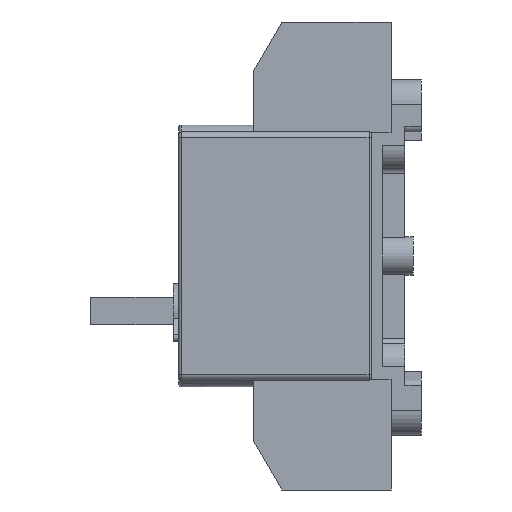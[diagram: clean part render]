
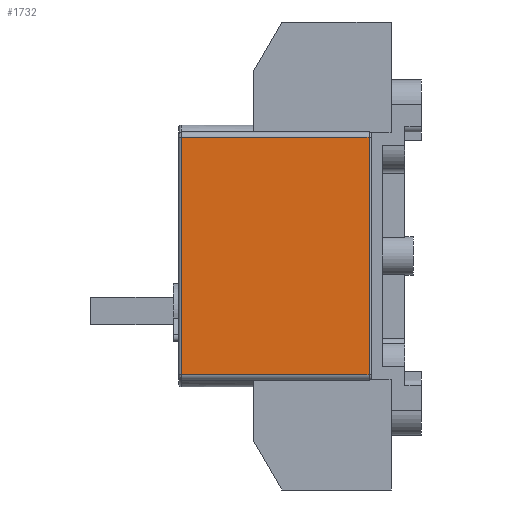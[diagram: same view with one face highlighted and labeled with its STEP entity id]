
A CAD part, left-side view. The second image highlights one B-rep face of the part: STEP entity #1732.
In plain terms, the highlighted planar face has unit normal (-1, 0, 0).
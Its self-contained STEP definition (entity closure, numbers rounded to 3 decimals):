
#275=FACE_OUTER_BOUND('',#2425,.T.);
#631=LINE('',#8945,#1151);
#784=LINE('',#9666,#1304);
#791=LINE('',#9718,#1311);
#792=LINE('',#9720,#1312);
#1151=VECTOR('',#7227,1.);
#1304=VECTOR('',#7854,1.);
#1311=VECTOR('',#7879,1.);
#1312=VECTOR('',#7882,1.);
#1732=ADVANCED_FACE('',(#275),#1907,.F.);
#1907=PLANE('',#6260);
#2425=EDGE_LOOP('',(#3864,#3865,#3866,#3867));
#3864=ORIENTED_EDGE('',*,*,#5419,.F.);
#3865=ORIENTED_EDGE('',*,*,#5405,.T.);
#3866=ORIENTED_EDGE('',*,*,#5420,.T.);
#3867=ORIENTED_EDGE('',*,*,#5113,.T.);
#4432=VERTEX_POINT('',#8938);
#4434=VERTEX_POINT('',#8944);
#4617=VERTEX_POINT('',#9633);
#4621=VERTEX_POINT('',#9665);
#5113=EDGE_CURVE('',#4432,#4434,#631,.T.);
#5405=EDGE_CURVE('',#4617,#4621,#784,.T.);
#5419=EDGE_CURVE('',#4617,#4434,#791,.T.);
#5420=EDGE_CURVE('',#4621,#4432,#792,.T.);
#6260=AXIS2_PLACEMENT_3D('',#9721,#7883,#7884);
#7227=DIRECTION('',(0.,0.,1.));
#7854=DIRECTION('',(0.,0.,-1.));
#7879=DIRECTION('',(0.,-1.,0.));
#7882=DIRECTION('',(0.,-1.,0.));
#7883=DIRECTION('',(1.,0.,0.));
#7884=DIRECTION('',(0.,0.,-1.));
#8938=CARTESIAN_POINT('',(-41.,1.,-43.));
#8944=CARTESIAN_POINT('',(-41.,1.,43.));
#8945=CARTESIAN_POINT('',(-41.,1.,-43.));
#9633=CARTESIAN_POINT('',(-41.,69.,43.));
#9665=CARTESIAN_POINT('',(-41.,69.,-43.));
#9666=CARTESIAN_POINT('',(-41.,69.,-43.));
#9718=CARTESIAN_POINT('',(-41.,35.,43.));
#9720=CARTESIAN_POINT('',(-41.,35.,-43.));
#9721=CARTESIAN_POINT('',(-41.,35.,-43.));
